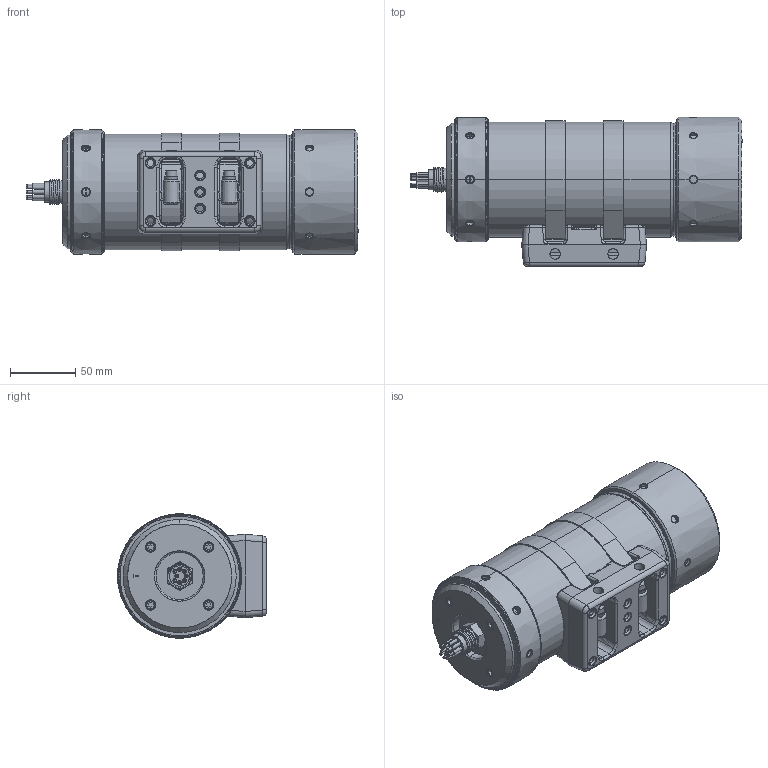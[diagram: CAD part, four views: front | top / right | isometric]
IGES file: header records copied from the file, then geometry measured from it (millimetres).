
Start section: SolidWorks IGES file using analytic representation for surfaces
Global section: file name: S:\3D_Product_Models\Cameras\HDSSC-MCBH8E-0A_20161220a.IGS; native system: SolidWorks 2016; preprocessor: SolidWorks 2016; author: jason.buss; date: 161220.115129; units: millimetre
Bounding box: 254.76 x 114.4 x 95.46 mm (x, y, z)
Surface area: 135412.8 mm2 (no closed solid volume)
Topology: 0 solids, 0 shells, 707 faces, 9923 edges, 9903 vertices
Faces by surface type: revolution 421, bspline 286
